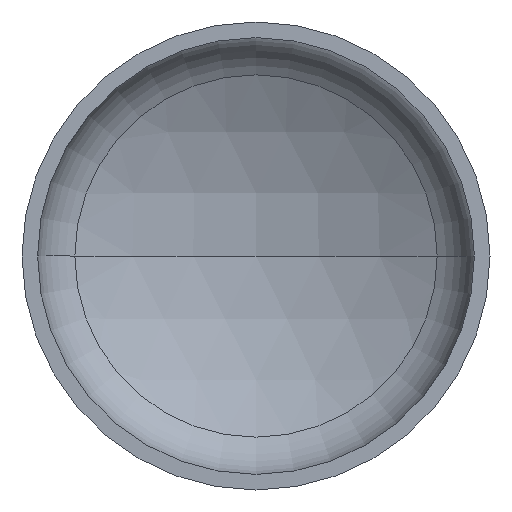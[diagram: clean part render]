
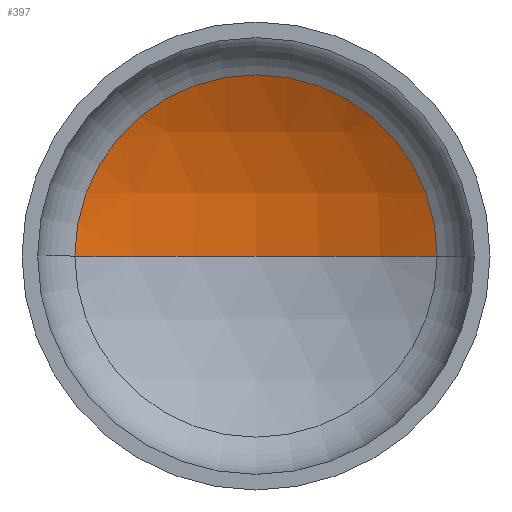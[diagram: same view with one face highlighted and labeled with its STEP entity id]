
A CAD part, front view. The second image highlights one B-rep face of the part: STEP entity #397.
In plain terms, the highlighted spherical face has radius 2880 mm.
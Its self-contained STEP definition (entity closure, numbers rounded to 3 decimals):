
#9 = EDGE_LOOP ( 'NONE', ( #76, #46, #94 ) ) ;
#27 = VERTEX_POINT ( 'NONE', #256 ) ;
#35 = DIRECTION ( 'NONE',  ( 1., 0., 0. ) ) ;
#40 = VERTEX_POINT ( 'NONE', #285 ) ;
#46 = ORIENTED_EDGE ( 'NONE', *, *, #136, .T. ) ;
#53 = AXIS2_PLACEMENT_3D ( 'NONE', #105, #199, #208 ) ;
#57 = AXIS2_PLACEMENT_3D ( 'NONE', #202, #158, #408 ) ;
#60 = VERTEX_POINT ( 'NONE', #237 ) ;
#62 = AXIS2_PLACEMENT_3D ( 'NONE', #266, #247, #35 ) ;
#76 = ORIENTED_EDGE ( 'NONE', *, *, #137, .F. ) ;
#94 = ORIENTED_EDGE ( 'NONE', *, *, #134, .T. ) ;
#105 = CARTESIAN_POINT ( 'NONE',  ( 0., -1959.699, 0. ) ) ;
#134 = EDGE_CURVE ( 'NONE', #60, #27, #269, .T. ) ;
#136 = EDGE_CURVE ( 'NONE', #40, #60, #211, .T. ) ;
#137 = EDGE_CURVE ( 'NONE', #40, #27, #388, .T. ) ;
#148 = FACE_OUTER_BOUND ( 'NONE', #9, .T. ) ;
#158 = DIRECTION ( 'NONE',  ( 0., 0., -1. ) ) ;
#159 = SPHERICAL_SURFACE ( 'NONE', #390, 2880. ) ;
#199 = DIRECTION ( 'NONE',  ( 0., 0., 1. ) ) ;
#202 = CARTESIAN_POINT ( 'NONE',  ( 0., -1959.699, 0. ) ) ;
#208 = DIRECTION ( 'NONE',  ( 1., 0., 0. ) ) ;
#211 = CIRCLE ( 'NONE', #57, 2880. ) ;
#229 = DIRECTION ( 'NONE',  ( 0., 0., -1. ) ) ;
#237 = CARTESIAN_POINT ( 'NONE',  ( 1393.548, 560.702, 0. ) ) ;
#247 = DIRECTION ( 'NONE',  ( 0., -1., 0. ) ) ;
#256 = CARTESIAN_POINT ( 'NONE',  ( -1393.548, 560.702, 0. ) ) ;
#266 = CARTESIAN_POINT ( 'NONE',  ( 0., 560.702, 0. ) ) ;
#269 = CIRCLE ( 'NONE', #62, 1393.548 ) ;
#285 = CARTESIAN_POINT ( 'NONE',  ( 0., 920.301, 0. ) ) ;
#373 = CARTESIAN_POINT ( 'NONE',  ( 0., -1959.699, 0. ) ) ;
#388 = CIRCLE ( 'NONE', #53, 2880. ) ;
#390 = AXIS2_PLACEMENT_3D ( 'NONE', #373, #229, #393 ) ;
#393 = DIRECTION ( 'NONE',  ( -1., 0., 0. ) ) ;
#397 = ADVANCED_FACE ( 'NONE', ( #148 ), #159, .F. ) ;
#408 = DIRECTION ( 'NONE',  ( -1., 0., 0. ) ) ;
